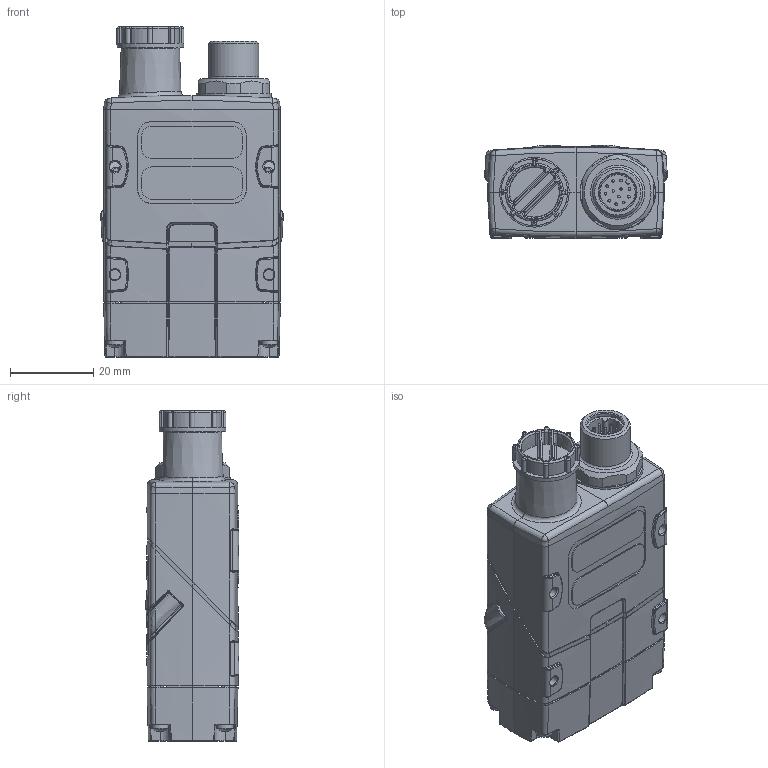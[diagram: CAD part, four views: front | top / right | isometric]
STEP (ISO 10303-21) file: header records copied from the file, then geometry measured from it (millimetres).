
FILE_DESCRIPTION (( 'STEP AP214' ), '1' );
FILE_NAME ('DM260_straight.STEP', '2015-07-01T15:26:51', ( 'anessel' ), ( 'Microsoft' ), 'SwSTEP 2.0', 'SolidWorks 2014', '' );
FILE_SCHEMA (( 'AUTOMOTIVE_DESIGN' ));
Length unit declared in the file: millimetre
Products named in the file (1): DM260_straight
Bounding box: 43.87 x 22.45 x 79.26 mm (x, y, z)
Surface area: 14079 mm2 (no closed solid volume)
Topology: 0 solids, 46 shells, 1035 faces, 3549 edges, 2489 vertices
Faces by surface type: bspline 399, plane 239, cylinder 230, cone 86, torus 64, sphere 17
Full cylindrical faces by diameter (mm): 0.6 x12, 2.5 x4, 4 x4, 4.5 x2, 8.8 x1, 10 x1, 12 x1, 16 x1
Entity records: 63484 total; most frequent: CARTESIAN_POINT 26698, ORIENTED_EDGE 5640, DIRECTION 3933, EDGE_CURVE 3468, VERTEX_POINT 2479, AXIS2_PLACEMENT_3D 1509, B_SPLINE_CURVE_WITH_KNOTS 1477, EDGE_LOOP 1151
